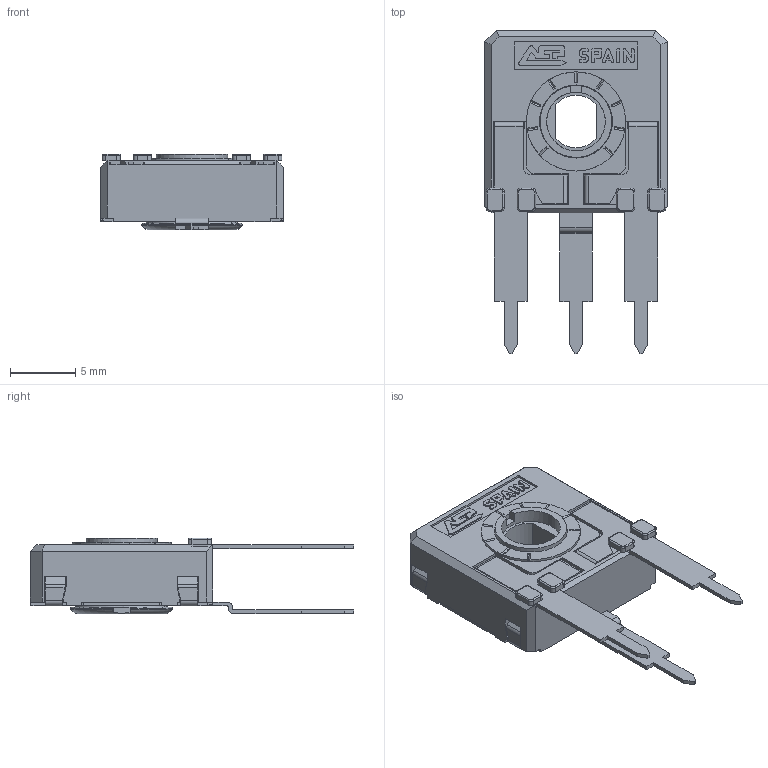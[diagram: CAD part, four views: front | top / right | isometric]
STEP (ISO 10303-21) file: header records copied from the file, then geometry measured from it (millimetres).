
FILE_DESCRIPTION(/* description */ (''),/* implementation_level */ '2;1');
FILE_NAME(/* name */ '\\SERVERACP\intercambio\Ignacio Santa Cecilia\Nueva WEB 2025\CA14 - CE14\CA14ZHL5.stp',/* time_stamp */ '2025-07-01T10:35:47+02:00',/* author */ ('CEM'),/* organization */ (''),/* preprocessor_version */ 'ST-DEVELOPER v17',/* originating_system */ 'Autodesk Inventor 2018',/* authorisation */ '');
FILE_SCHEMA (('AUTOMOTIVE_DESIGN { 1 0 10303 214 3 1 1 }'));
Length unit declared in the file: millimetre
Products named in the file (1): CARCASA CA14 PGA
Bounding box: 14 x 24.8 x 5.8 mm (x, y, z)
Volume: 539.9 mm3; surface area: 1517.6 mm2
Topology: 1 solids, 1 shells, 666 faces, 1881 edges, 1211 vertices
Faces by surface type: plane 494, cylinder 135, torus 23, bspline 8, cone 6
Full cylindrical faces by diameter (mm): 4.5 x1, 5.5 x1, 5.6 x1, 5.752 x1, 6.8 x1, 7.6 x1
Entity records: 21747 total; most frequent: CARTESIAN_POINT 4056, ORIENTED_EDGE 3762, DIRECTION 3509, EDGE_CURVE 1881, LINE 1481, VECTOR 1481, VERTEX_POINT 1211, AXIS2_PLACEMENT_3D 1014
